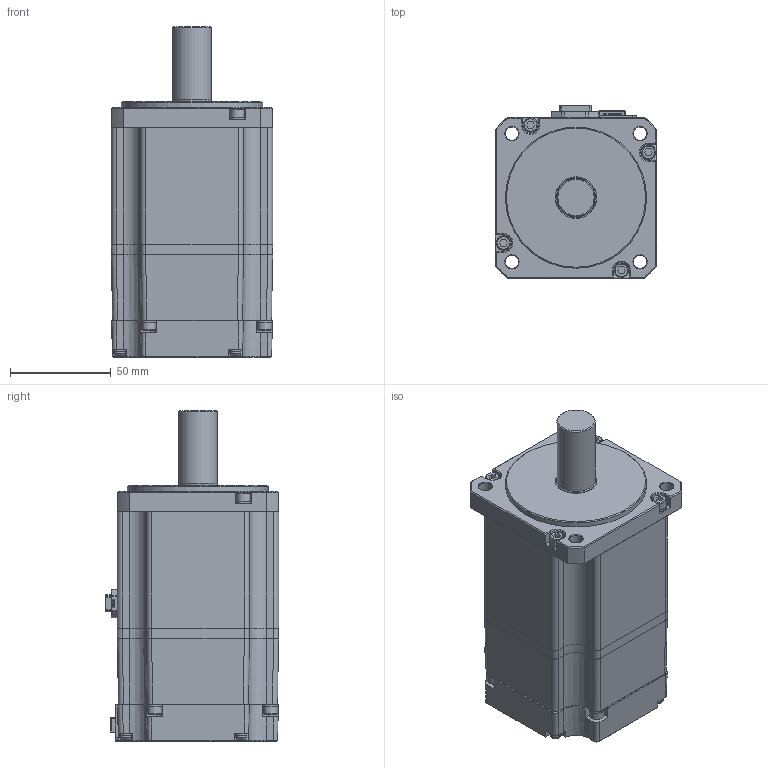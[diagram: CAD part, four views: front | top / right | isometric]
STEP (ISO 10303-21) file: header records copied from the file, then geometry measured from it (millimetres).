
FILE_DESCRIPTION (( 'STEP AP214' ), '1' );
FILE_NAME ('EM08GA004G03_Out Line(APM-EC08AM3N2).STEP', '2022-11-10T03:20:11', ( '' ), ( '' ), 'SwSTEP 2.0', 'SolidWorks 2021', '' );
FILE_SCHEMA (( 'AUTOMOTIVE_DESIGN' ));
Length unit declared in the file: millimetre
Products named in the file (1): EM08GA004G03_Out Line(APM-EC08AM3N2)
Bounding box: 80 x 85.9 x 164 mm (x, y, z)
Volume: 716617.9 mm3; surface area: 113232.8 mm2
Topology: 34 solids, 34 shells, 1569 faces, 3923 edges, 2490 vertices
Faces by surface type: plane 1118, cylinder 233, cone 144, torus 31, bspline 29, sphere 14
Full cylindrical faces by diameter (mm): 1.589 x1, 1.6 x9, 2 x2, 2.1 x2, 2.5 x8, 3 x8, 3.3 x8, 4 x12, 4.5 x8, 5.4 x8, 7 x8, 7.2 x8, 19 x1, 19.8 x1, 20.6 x1, 70 x1
Entity records: 64167 total; most frequent: CARTESIAN_POINT 10171, ORIENTED_EDGE 7432, DIRECTION 7149, EDGE_CURVE 3716, VECTOR 2749, LINE 2749, VERTEX_POINT 2443, AXIS2_PLACEMENT_3D 2200
